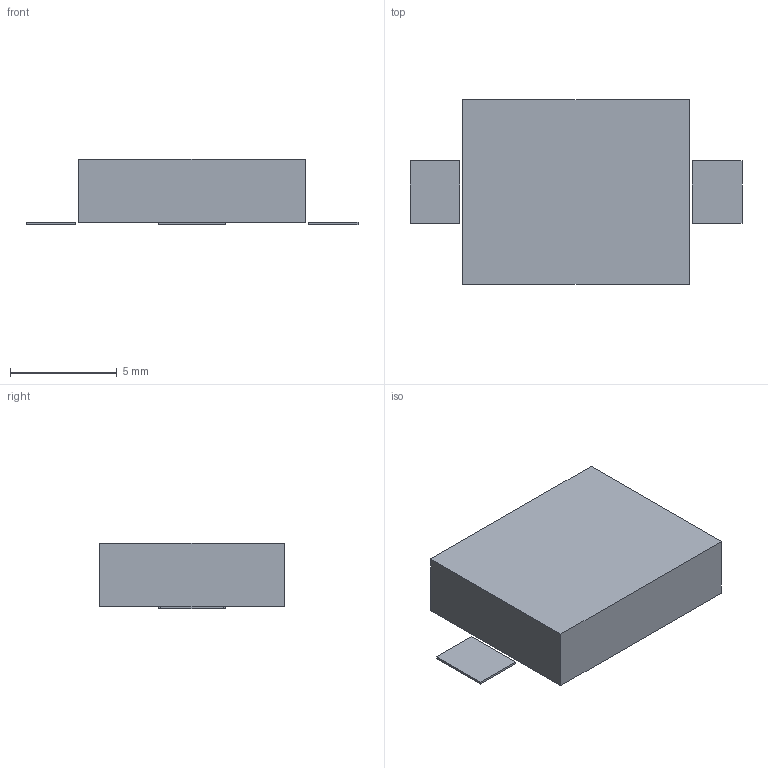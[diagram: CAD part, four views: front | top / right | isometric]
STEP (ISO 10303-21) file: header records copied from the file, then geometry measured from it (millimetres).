
FILE_DESCRIPTION(('FreeCAD Model'),'2;1');
FILE_NAME('/var/www/3D/0T/1662870.1.2.stp','2020-04-10T14:49:24',( 'Author'),(''),'Open CASCADE STEP processor 6.9','FreeCAD','Unknown' );
FILE_SCHEMA(('AUTOMOTIVE_DESIGN { 1 0 10303 214 1 1 1 1 }'));
Length unit declared in the file: millimetre
Products named in the file (3): ASSEMBLY; Body; Pins
Assembly tree (2 placements, depth 2):
  ASSEMBLY
    Body
    Pins
Bounding box: 15.52 x 8.61 x 3.05 mm (x, y, z)
Volume: 271.6 mm3; surface area: 346.4 mm2
Topology: 4 solids, 4 shells, 24 faces, 48 edges, 32 vertices
Faces by surface type: plane 24
Entity records: 1316 total; most frequent: CARTESIAN_POINT 203, DIRECTION 198, LINE 144, VECTOR 144, ORIENTED_EDGE 96, PCURVE 96, DEFINITIONAL_REPRESENTATION 96, EDGE_CURVE 48
